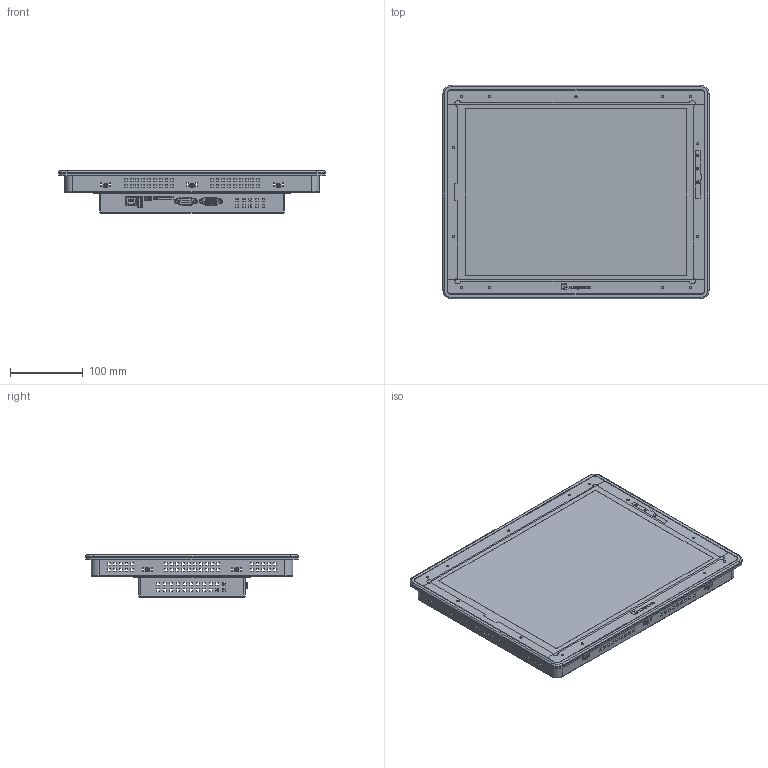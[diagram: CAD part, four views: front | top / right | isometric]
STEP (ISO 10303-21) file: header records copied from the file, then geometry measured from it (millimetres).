
FILE_DESCRIPTION (( 'STEP AP214' ), '1' );
FILE_NAME ('MT8150iE2.STEP', '2021-09-29T08:08:11', ( '' ), ( '' ), 'SwSTEP 2.0', 'SolidWorks 2019', '' );
FILE_SCHEMA (( 'AUTOMOTIVE_DESIGN' ));
Length unit declared in the file: millimetre
Products named in the file (1): MT8150iE2
Bounding box: 366 x 293 x 58 mm (x, y, z)
Surface area: 562121 mm2 (no closed solid volume)
Topology: 0 solids, 72 shells, 1689 faces, 6528 edges, 4850 vertices
Faces by surface type: plane 1336, cylinder 173, cone 103, bspline 46, torus 27, sphere 4
Entity records: 89501 total; most frequent: CARTESIAN_POINT 17171, DIRECTION 10270, ORIENTED_EDGE 9820, EDGE_CURVE 6524, LINE 5290, VECTOR 5290, VERTEX_POINT 4850, AXIS2_PLACEMENT_3D 2490
